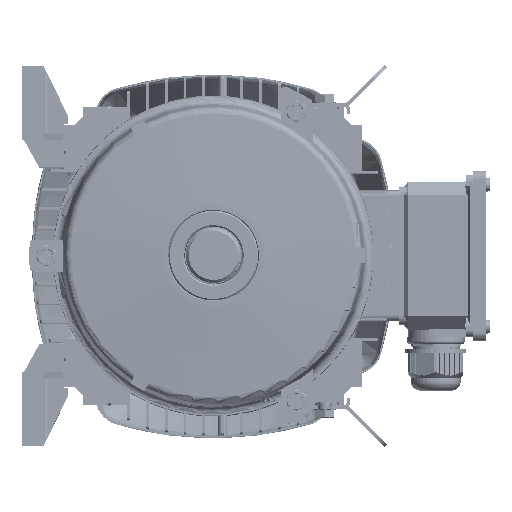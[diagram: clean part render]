
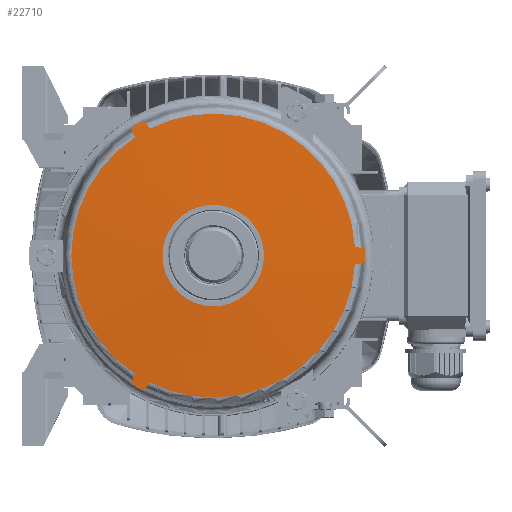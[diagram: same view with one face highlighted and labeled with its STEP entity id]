
A CAD part, top view. The second image highlights one B-rep face of the part: STEP entity #22710.
In plain terms, the highlighted conical face has half-angle 87 degrees and reference radius 35 mm.
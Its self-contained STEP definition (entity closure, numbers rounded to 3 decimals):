
#20839=FACE_BOUND('',#32698,.T.);
#20840=FACE_BOUND('',#32699,.T.);
#22710=ADVANCED_FACE('',(#20839,#20840),#27839,.T.);
#27839=CONICAL_SURFACE('',#96276,35.,87.);
#32698=EDGE_LOOP('',(#41335,#41336,#41337,#41338,#41339,#41340,#41341,#41342,
#41343,#41344,#41345,#41346));
#32699=EDGE_LOOP('',(#41347));
#38995=B_SPLINE_CURVE_WITH_KNOTS('',3,(#131435,#131436,#131437,#131438),
 .UNSPECIFIED.,.F.,.F.,(4,4),(0.,1.),.UNSPECIFIED.);
#38996=B_SPLINE_CURVE_WITH_KNOTS('',3,(#131442,#131443,#131444,#131445),
 .UNSPECIFIED.,.F.,.F.,(4,4),(0.,1.),.UNSPECIFIED.);
#38997=B_SPLINE_CURVE_WITH_KNOTS('',3,(#131446,#131447,#131448,#131449),
 .UNSPECIFIED.,.F.,.F.,(4,4),(0.,1.),.UNSPECIFIED.);
#38998=B_SPLINE_CURVE_WITH_KNOTS('',3,(#131453,#131454,#131455,#131456),
 .UNSPECIFIED.,.F.,.F.,(4,4),(0.,1.),.UNSPECIFIED.);
#38999=B_SPLINE_CURVE_WITH_KNOTS('',3,(#131457,#131458,#131459,#131460),
 .UNSPECIFIED.,.F.,.F.,(4,4),(0.,1.),.UNSPECIFIED.);
#39000=B_SPLINE_CURVE_WITH_KNOTS('',3,(#131464,#131465,#131466,#131467),
 .UNSPECIFIED.,.F.,.F.,(4,4),(0.,1.),.UNSPECIFIED.);
#41335=ORIENTED_EDGE('',*,*,#78419,.F.);
#41336=ORIENTED_EDGE('',*,*,#78596,.T.);
#41337=ORIENTED_EDGE('',*,*,#78597,.T.);
#41338=ORIENTED_EDGE('',*,*,#78598,.F.);
#41339=ORIENTED_EDGE('',*,*,#78414,.F.);
#41340=ORIENTED_EDGE('',*,*,#78599,.T.);
#41341=ORIENTED_EDGE('',*,*,#78600,.T.);
#41342=ORIENTED_EDGE('',*,*,#78601,.F.);
#41343=ORIENTED_EDGE('',*,*,#78417,.F.);
#41344=ORIENTED_EDGE('',*,*,#78602,.T.);
#41345=ORIENTED_EDGE('',*,*,#78603,.T.);
#41346=ORIENTED_EDGE('',*,*,#78604,.F.);
#41347=ORIENTED_EDGE('',*,*,#78595,.T.);
#68989=VERTEX_POINT('',#130393);
#68990=VERTEX_POINT('',#130400);
#68991=VERTEX_POINT('',#130409);
#68992=VERTEX_POINT('',#130416);
#68993=VERTEX_POINT('',#130425);
#68994=VERTEX_POINT('',#130427);
#69133=VERTEX_POINT('',#131433);
#69134=VERTEX_POINT('',#131439);
#69135=VERTEX_POINT('',#131441);
#69136=VERTEX_POINT('',#131450);
#69137=VERTEX_POINT('',#131452);
#69138=VERTEX_POINT('',#131461);
#69139=VERTEX_POINT('',#131463);
#78414=EDGE_CURVE('',#68990,#68989,#92346,.T.);
#78417=EDGE_CURVE('',#68992,#68991,#92347,.T.);
#78419=EDGE_CURVE('',#68993,#68994,#92348,.T.);
#78595=EDGE_CURVE('',#69133,#69133,#92415,.T.);
#78596=EDGE_CURVE('',#68993,#69134,#38995,.T.);
#78597=EDGE_CURVE('',#69134,#69135,#92416,.T.);
#78598=EDGE_CURVE('',#68989,#69135,#38996,.T.);
#78599=EDGE_CURVE('',#68990,#69136,#38997,.T.);
#78600=EDGE_CURVE('',#69136,#69137,#92417,.T.);
#78601=EDGE_CURVE('',#68991,#69137,#38998,.T.);
#78602=EDGE_CURVE('',#68992,#69138,#38999,.T.);
#78603=EDGE_CURVE('',#69138,#69139,#92418,.T.);
#78604=EDGE_CURVE('',#68994,#69139,#39000,.T.);
#92346=CIRCLE('',#96153,97.948);
#92347=CIRCLE('',#96155,97.948);
#92348=CIRCLE('',#96157,97.948);
#92415=CIRCLE('',#96271,35.);
#92416=CIRCLE('',#96273,105.);
#92417=CIRCLE('',#96274,105.);
#92418=CIRCLE('',#96275,105.);
#96153=AXIS2_PLACEMENT_3D('',#130401,#104932,#104933);
#96155=AXIS2_PLACEMENT_3D('',#130417,#104936,#104937);
#96157=AXIS2_PLACEMENT_3D('',#130426,#104940,#104941);
#96271=AXIS2_PLACEMENT_3D('',#131432,#105186,#105187);
#96273=AXIS2_PLACEMENT_3D('',#131440,#105190,#105191);
#96274=AXIS2_PLACEMENT_3D('',#131451,#105192,#105193);
#96275=AXIS2_PLACEMENT_3D('',#131462,#105194,#105195);
#96276=AXIS2_PLACEMENT_3D('',#131468,#105196,#105197);
#104932=DIRECTION('',(0.,0.,-1.));
#104933=DIRECTION('',(0.,-1.,0.));
#104936=DIRECTION('',(0.,0.,-1.));
#104937=DIRECTION('',(0.,-1.,0.));
#104940=DIRECTION('',(0.,0.,-1.));
#104941=DIRECTION('',(0.,-1.,0.));
#105186=DIRECTION('',(0.,0.,-1.));
#105187=DIRECTION('',(0.,-1.,0.));
#105190=DIRECTION('',(0.,0.,1.));
#105191=DIRECTION('',(-0.866,0.5,0.));
#105192=DIRECTION('',(0.,0.,1.));
#105193=DIRECTION('',(0.,-1.,0.));
#105194=DIRECTION('',(0.,0.,1.));
#105195=DIRECTION('',(0.866,0.5,0.));
#105196=DIRECTION('',(0.,0.,-1.));
#105197=DIRECTION('',(0.,-1.,0.));
#130393=CARTESIAN_POINT('',(-43.686,-87.666,273.701));
#130400=CARTESIAN_POINT('',(97.764,-6.,273.701));
#130401=CARTESIAN_POINT('',(0.,0.,273.701));
#130409=CARTESIAN_POINT('',(97.764,6.,273.701));
#130416=CARTESIAN_POINT('',(-43.686,87.666,273.701));
#130417=CARTESIAN_POINT('',(0.,0.,273.701));
#130425=CARTESIAN_POINT('',(-54.078,-81.666,273.701));
#130426=CARTESIAN_POINT('',(0.,0.,273.701));
#130427=CARTESIAN_POINT('',(-54.078,81.666,273.701));
#131432=CARTESIAN_POINT('',(0.,0.,277.));
#131433=CARTESIAN_POINT('',(0.,-35.,277.));
#131435=CARTESIAN_POINT('',(-54.078,-81.666,273.701));
#131436=CARTESIAN_POINT('',(-54.975,-83.887,273.578));
#131437=CARTESIAN_POINT('',(-55.873,-86.108,273.455));
#131438=CARTESIAN_POINT('',(-56.771,-88.33,273.331));
#131439=CARTESIAN_POINT('',(-56.771,-88.33,273.331));
#131440=CARTESIAN_POINT('',(0.,0.,273.331));
#131441=CARTESIAN_POINT('',(-48.11,-93.33,273.331));
#131442=CARTESIAN_POINT('',(-43.686,-87.666,273.701));
#131443=CARTESIAN_POINT('',(-45.161,-89.554,273.578));
#131444=CARTESIAN_POINT('',(-46.635,-91.442,273.455));
#131445=CARTESIAN_POINT('',(-48.11,-93.33,273.331));
#131446=CARTESIAN_POINT('',(97.764,-6.,273.701));
#131447=CARTESIAN_POINT('',(100.136,-5.667,273.578));
#131448=CARTESIAN_POINT('',(102.508,-5.333,273.455));
#131449=CARTESIAN_POINT('',(104.881,-5.,273.331));
#131450=CARTESIAN_POINT('',(104.881,-5.,273.331));
#131451=CARTESIAN_POINT('',(0.,0.,273.331));
#131452=CARTESIAN_POINT('',(104.881,5.,273.331));
#131453=CARTESIAN_POINT('',(97.764,6.,273.701));
#131454=CARTESIAN_POINT('',(100.136,5.667,273.578));
#131455=CARTESIAN_POINT('',(102.508,5.333,273.455));
#131456=CARTESIAN_POINT('',(104.881,5.,273.331));
#131457=CARTESIAN_POINT('',(-43.686,87.666,273.701));
#131458=CARTESIAN_POINT('',(-45.161,89.554,273.578));
#131459=CARTESIAN_POINT('',(-46.635,91.442,273.455));
#131460=CARTESIAN_POINT('',(-48.11,93.33,273.331));
#131461=CARTESIAN_POINT('',(-48.11,93.33,273.331));
#131462=CARTESIAN_POINT('',(0.,0.,
273.331));
#131463=CARTESIAN_POINT('',(-56.771,88.33,273.331));
#131464=CARTESIAN_POINT('',(-54.078,81.666,273.701));
#131465=CARTESIAN_POINT('',(-54.975,83.887,273.578));
#131466=CARTESIAN_POINT('',(-55.873,86.108,273.455));
#131467=CARTESIAN_POINT('',(-56.771,88.33,273.331));
#131468=CARTESIAN_POINT('',(0.,0.,277.));
